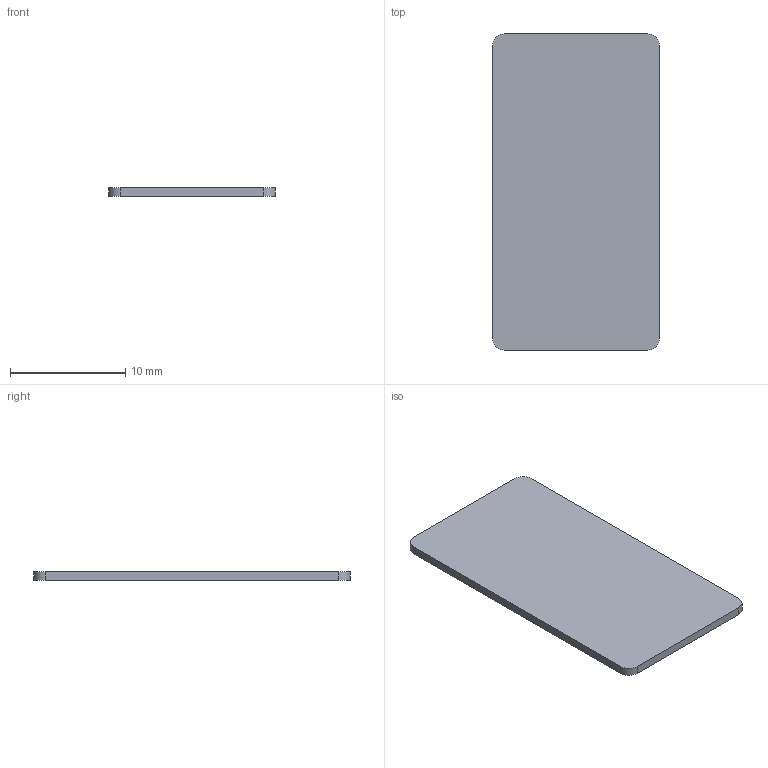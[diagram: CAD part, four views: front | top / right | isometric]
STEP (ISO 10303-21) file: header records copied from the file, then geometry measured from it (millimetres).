
FILE_DESCRIPTION(/* description */ (''),/* implementation_level */ '2;1');
FILE_NAME(/* name */ 'C27_R2_Battery_Rear_Pad_-1.step',/* time_stamp */ '2026-09-10T17:48:52-07:00',/* author */ (''),/* organization */ (''),/* preprocessor_version */ 'ST-DEVELOPER v20.1',/* originating_system */ 'Autodesk Translation Framework v15.8.0.0',/* authorisation */ '');
FILE_SCHEMA (('AUTOMOTIVE_DESIGN { 1 0 10303 214 3 1 1 }'));
Length unit declared in the file: millimetre
Products named in the file (1): 2026-09-10-17-48-52-606
Bounding box: 14.5 x 27.5 x 0.74 mm (x, y, z)
Volume: 294.4 mm3; surface area: 856.7 mm2
Topology: 1 solids, 1 shells, 10 faces, 24 edges, 16 vertices
Faces by surface type: plane 6, cylinder 4
Entity records: 329 total; most frequent: DIRECTION 54, CARTESIAN_POINT 51, ORIENTED_EDGE 48, EDGE_CURVE 24, AXIS2_PLACEMENT_3D 19, LINE 16, VECTOR 16, VERTEX_POINT 16
